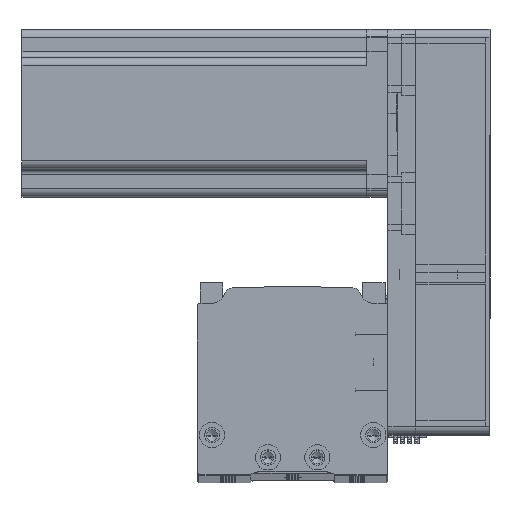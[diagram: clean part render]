
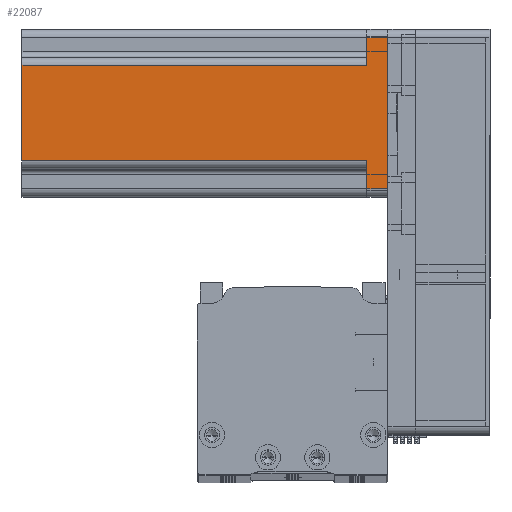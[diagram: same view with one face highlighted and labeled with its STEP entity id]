
A CAD part, top view. The second image highlights one B-rep face of the part: STEP entity #22087.
In plain terms, the highlighted planar face has unit normal (0, 0, 1) as drawn and (0, -1, 0) by its records, which use the part's own axes.
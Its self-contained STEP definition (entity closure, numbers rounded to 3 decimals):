
#1544 = DIRECTION ( 'NONE',  ( -1., 0., 0. ) ) ;
#7013 = VERTEX_POINT ( 'NONE', #80146 ) ;
#10650 = CARTESIAN_POINT ( 'NONE',  ( -27., -30., 130.7 ) ) ;
#12314 = ORIENTED_EDGE ( 'NONE', *, *, #28315, .T. ) ;
#14959 = ORIENTED_EDGE ( 'NONE', *, *, #21421, .T. ) ;
#14981 = ORIENTED_EDGE ( 'NONE', *, *, #16416, .T. ) ;
#15810 = VECTOR ( 'NONE', #1544, 1000. ) ;
#16416 = EDGE_CURVE ( 'NONE', #54536, #29389, #95426, .T. ) ;
#16459 = CARTESIAN_POINT ( 'NONE',  ( 17., -30., 7.5 ) ) ;
#17528 = EDGE_LOOP ( 'NONE', ( #69784, #51531, #93927, #125594, #108964, #14981, #14959, #12314 ) ) ;
#21306 = DIRECTION ( 'NONE',  ( 0., 0., -1. ) ) ;
#21421 = EDGE_CURVE ( 'NONE', #29389, #57688, #43725, .T. ) ;
#22087 = ADVANCED_FACE ( 'NONE', ( #94539 ), #130723, .F. ) ;
#23254 = VECTOR ( 'NONE', #34163, 1000. ) ;
#26291 = CARTESIAN_POINT ( 'NONE',  ( 30., -30., 130.7 ) ) ;
#28315 = EDGE_CURVE ( 'NONE', #57688, #101716, #98403, .T. ) ;
#28593 = EDGE_CURVE ( 'NONE', #32364, #54536, #58682, .T. ) ;
#29050 = LINE ( 'NONE', #58728, #131124 ) ;
#29389 = VERTEX_POINT ( 'NONE', #34346 ) ;
#32364 = VERTEX_POINT ( 'NONE', #81929 ) ;
#33701 = CARTESIAN_POINT ( 'NONE',  ( -20., -30., 7.5 ) ) ;
#34163 = DIRECTION ( 'NONE',  ( 1., 0., 0. ) ) ;
#34346 = CARTESIAN_POINT ( 'NONE',  ( 27., -30., 7.5 ) ) ;
#35175 = CARTESIAN_POINT ( 'NONE',  ( 27., -30., 130.7 ) ) ;
#35621 = EDGE_CURVE ( 'NONE', #118496, #101716, #36183, .T. ) ;
#36183 = LINE ( 'NONE', #94769, #116906 ) ;
#36819 = DIRECTION ( 'NONE',  ( -1., 0., 0. ) ) ;
#39211 = CARTESIAN_POINT ( 'NONE',  ( 30., -30., 0. ) ) ;
#42262 = CARTESIAN_POINT ( 'NONE',  ( 27., -30., 0. ) ) ;
#42278 = VECTOR ( 'NONE', #65954, 1000. ) ;
#43725 = LINE ( 'NONE', #75223, #15810 ) ;
#46018 = VERTEX_POINT ( 'NONE', #50471 ) ;
#50471 = CARTESIAN_POINT ( 'NONE',  ( -17., -30., 7.5 ) ) ;
#51198 = LINE ( 'NONE', #33701, #23254 ) ;
#51531 = ORIENTED_EDGE ( 'NONE', *, *, #106468, .T. ) ;
#54536 = VERTEX_POINT ( 'NONE', #42262 ) ;
#57688 = VERTEX_POINT ( 'NONE', #16459 ) ;
#58682 = LINE ( 'NONE', #39211, #136096 ) ;
#58728 = CARTESIAN_POINT ( 'NONE',  ( -17., -30., 130.7 ) ) ;
#65954 = DIRECTION ( 'NONE',  ( 0., 0., 1. ) ) ;
#66948 = DIRECTION ( 'NONE',  ( 0., 0., 1. ) ) ;
#67408 = VECTOR ( 'NONE', #66948, 1000. ) ;
#69389 = DIRECTION ( 'NONE',  ( 0., 0., -1. ) ) ;
#69784 = ORIENTED_EDGE ( 'NONE', *, *, #35621, .F. ) ;
#75223 = CARTESIAN_POINT ( 'NONE',  ( 20., -30., 7.5 ) ) ;
#76563 = CARTESIAN_POINT ( 'NONE',  ( 17., -30., 130.7 ) ) ;
#76702 = LINE ( 'NONE', #10650, #132710 ) ;
#80146 = CARTESIAN_POINT ( 'NONE',  ( -27., -30., 7.5 ) ) ;
#81929 = CARTESIAN_POINT ( 'NONE',  ( -27., -30., 0. ) ) ;
#91719 = DIRECTION ( 'NONE',  ( 1., 0., 0. ) ) ;
#93927 = ORIENTED_EDGE ( 'NONE', *, *, #120451, .F. ) ;
#94539 = FACE_OUTER_BOUND ( 'NONE', #17528, .T. ) ;
#94769 = CARTESIAN_POINT ( 'NONE',  ( 30., -30., 130.7 ) ) ;
#95426 = LINE ( 'NONE', #35175, #67408 ) ;
#98403 = LINE ( 'NONE', #76563, #42278 ) ;
#99920 = DIRECTION ( 'NONE',  ( 0., 1., 0. ) ) ;
#101716 = VERTEX_POINT ( 'NONE', #104959 ) ;
#104959 = CARTESIAN_POINT ( 'NONE',  ( 17., -30., 130.7 ) ) ;
#105381 = DIRECTION ( 'NONE',  ( 1., 0., 0. ) ) ;
#106468 = EDGE_CURVE ( 'NONE', #118496, #46018, #29050, .T. ) ;
#108964 = ORIENTED_EDGE ( 'NONE', *, *, #28593, .T. ) ;
#116906 = VECTOR ( 'NONE', #105381, 1000. ) ;
#118496 = VERTEX_POINT ( 'NONE', #134613 ) ;
#120451 = EDGE_CURVE ( 'NONE', #7013, #46018, #51198, .T. ) ;
#125594 = ORIENTED_EDGE ( 'NONE', *, *, #132467, .T. ) ;
#126133 = AXIS2_PLACEMENT_3D ( 'NONE', #26291, #99920, #36819 ) ;
#130723 = PLANE ( 'NONE',  #126133 ) ;
#131124 = VECTOR ( 'NONE', #69389, 1000. ) ;
#132467 = EDGE_CURVE ( 'NONE', #7013, #32364, #76702, .T. ) ;
#132710 = VECTOR ( 'NONE', #21306, 1000. ) ;
#134613 = CARTESIAN_POINT ( 'NONE',  ( -17., -30., 130.7 ) ) ;
#136096 = VECTOR ( 'NONE', #91719, 1000. ) ;
